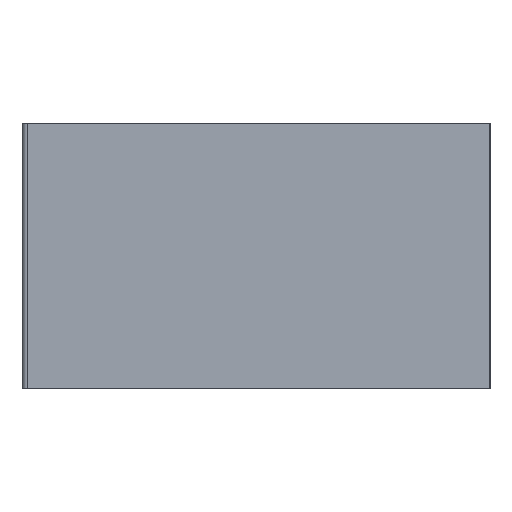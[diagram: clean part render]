
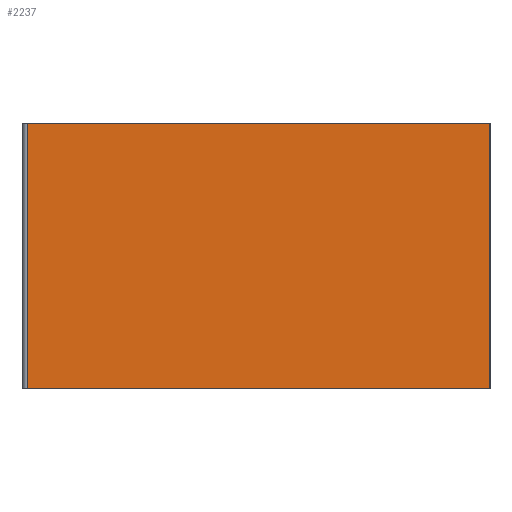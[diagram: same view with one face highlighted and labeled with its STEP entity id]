
A CAD part, left-side view. The second image highlights one B-rep face of the part: STEP entity #2237.
In plain terms, the highlighted planar face has unit normal (-1, 0, 0).
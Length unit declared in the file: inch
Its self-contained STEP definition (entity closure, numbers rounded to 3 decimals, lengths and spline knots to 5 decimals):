
#2181=CARTESIAN_POINT('',(-0.88583,-0.88583,1.0));
#2182=VERTEX_POINT('',#2181);
#2189=CARTESIAN_POINT('',(-0.88583,-0.88583,0.0));
#2190=VERTEX_POINT('',#2189);
#2191=CARTESIAN_POINT('',(-0.88583,-0.88583,0.0));
#2192=DIRECTION('',(0.0,0.0,1.0));
#2193=VECTOR('',#2192,1.0);
#2194=LINE('',#2191,#2193);
#2195=EDGE_CURVE('',#2190,#2182,#2194,.T.);
#2207=CARTESIAN_POINT('',(-0.88583,-0.88583,0.0));
#2208=DIRECTION('',(-1.,0.,0.0));
#2209=DIRECTION('',(0.0,0.0,1.0));
#2210=AXIS2_PLACEMENT_3D('',#2207,#2208,#2209);
#2211=PLANE('',#2210);
#2212=CARTESIAN_POINT('',(-0.88583,0.86614,1.0));
#2213=VERTEX_POINT('',#2212);
#2214=CARTESIAN_POINT('',(-0.88583,-0.88583,1.0));
#2215=DIRECTION('',(0.,1.,0.0));
#2216=VECTOR('',#2215,1.75197);
#2217=LINE('',#2214,#2216);
#2218=EDGE_CURVE('',#2182,#2213,#2217,.T.);
#2219=ORIENTED_EDGE('',*,*,#2218,.T.);
#2220=CARTESIAN_POINT('',(-0.88583,0.86614,0.0));
#2221=VERTEX_POINT('',#2220);
#2222=CARTESIAN_POINT('',(-0.88583,0.86614,0.0));
#2223=DIRECTION('',(0.0,0.0,1.0));
#2224=VECTOR('',#2223,1.0);
#2225=LINE('',#2222,#2224);
#2226=EDGE_CURVE('',#2221,#2213,#2225,.T.);
#2227=ORIENTED_EDGE('',*,*,#2226,.F.);
#2228=CARTESIAN_POINT('',(-0.88583,0.86614,0.0));
#2229=DIRECTION('',(0.,-1.,0.0));
#2230=VECTOR('',#2229,1.75197);
#2231=LINE('',#2228,#2230);
#2232=EDGE_CURVE('',#2221,#2190,#2231,.T.);
#2233=ORIENTED_EDGE('',*,*,#2232,.T.);
#2234=ORIENTED_EDGE('',*,*,#2195,.T.);
#2235=EDGE_LOOP('',(#2219,#2227,#2233,#2234));
#2236=FACE_OUTER_BOUND('',#2235,.T.);
#2237=ADVANCED_FACE('',(#2236),#2211,.T.);
